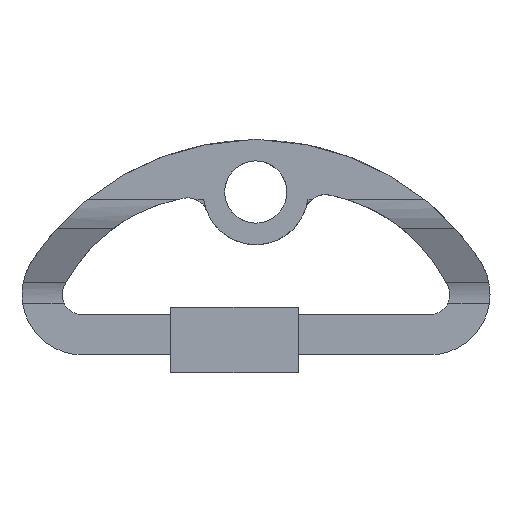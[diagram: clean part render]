
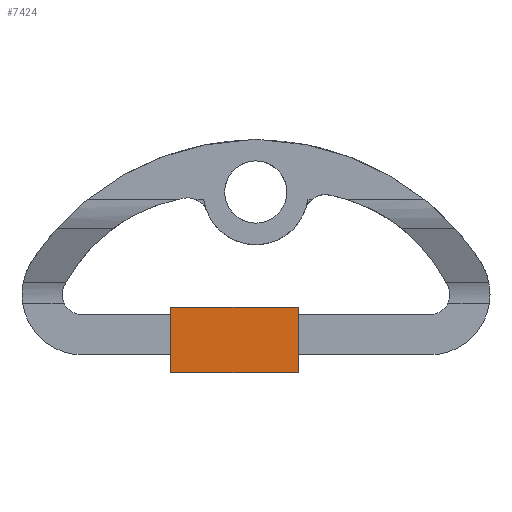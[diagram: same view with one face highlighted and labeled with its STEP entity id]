
A CAD part, top view. The second image highlights one B-rep face of the part: STEP entity #7424.
In plain terms, the highlighted planar face has unit normal (0, 0, 1).
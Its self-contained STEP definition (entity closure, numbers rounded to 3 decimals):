
#5411 = PLANE('',#5412);
#5412 = AXIS2_PLACEMENT_3D('',#5413,#5414,#5415);
#5413 = CARTESIAN_POINT('',(2.345,-6.455,-0.6));
#5414 = DIRECTION('',(1.,0.,0.));
#5415 = DIRECTION('',(0.,1.,0.));
#5833 = PLANE('',#5834);
#5834 = AXIS2_PLACEMENT_3D('',#5835,#5836,#5837);
#5835 = CARTESIAN_POINT('',(-4.005,-3.205,-0.6));
#5836 = DIRECTION('',(-1.,0.,0.));
#5837 = DIRECTION('',(0.,-1.,0.));
#6111 = VERTEX_POINT('',#6112);
#6112 = CARTESIAN_POINT('',(2.345,-6.455,-0.6));
#6128 = PLANE('',#6129);
#6129 = AXIS2_PLACEMENT_3D('',#6130,#6131,#6132);
#6130 = CARTESIAN_POINT('',(-4.005,-6.455,-0.6));
#6131 = DIRECTION('',(0.,-1.,0.));
#6132 = DIRECTION('',(1.,0.,0.));
#6186 = VERTEX_POINT('',#6187);
#6187 = CARTESIAN_POINT('',(2.345,-3.205,-0.6));
#6201 = PLANE('',#6202);
#6202 = AXIS2_PLACEMENT_3D('',#6203,#6204,#6205);
#6203 = CARTESIAN_POINT('',(2.345,-3.205,-0.6));
#6204 = DIRECTION('',(0.,1.,0.));
#6205 = DIRECTION('',(-1.,0.,0.));
#6213 = EDGE_CURVE('',#6111,#6186,#6214,.T.);
#6214 = SURFACE_CURVE('',#6215,(#6219,#6226),.PCURVE_S1.);
#6215 = LINE('',#6216,#6217);
#6216 = CARTESIAN_POINT('',(2.345,-6.455,-0.6));
#6217 = VECTOR('',#6218,1.);
#6218 = DIRECTION('',(0.,1.,0.));
#6219 = PCURVE('',#5411,#6220);
#6220 = DEFINITIONAL_REPRESENTATION('',(#6221),#6225);
#6221 = LINE('',#6222,#6223);
#6222 = CARTESIAN_POINT('',(0.,0.));
#6223 = VECTOR('',#6224,1.);
#6224 = DIRECTION('',(1.,0.));
#6225 = ( GEOMETRIC_REPRESENTATION_CONTEXT(2) 
PARAMETRIC_REPRESENTATION_CONTEXT() REPRESENTATION_CONTEXT('2D SPACE',''
  ) );
#6226 = PCURVE('',#6227,#6232);
#6227 = PLANE('',#6228);
#6228 = AXIS2_PLACEMENT_3D('',#6229,#6230,#6231);
#6229 = CARTESIAN_POINT('',(-0.83,-4.83,-0.6));
#6230 = DIRECTION('',(0.,0.,1.));
#6231 = DIRECTION('',(1.,0.,0.));
#6232 = DEFINITIONAL_REPRESENTATION('',(#6233),#6237);
#6233 = LINE('',#6234,#6235);
#6234 = CARTESIAN_POINT('',(3.175,-1.625));
#6235 = VECTOR('',#6236,1.);
#6236 = DIRECTION('',(0.,1.));
#6237 = ( GEOMETRIC_REPRESENTATION_CONTEXT(2) 
PARAMETRIC_REPRESENTATION_CONTEXT() REPRESENTATION_CONTEXT('2D SPACE',''
  ) );
#7023 = VERTEX_POINT('',#7024);
#7024 = CARTESIAN_POINT('',(-4.005,-3.205,-0.6));
#7049 = VERTEX_POINT('',#7050);
#7050 = CARTESIAN_POINT('',(-4.005,-6.455,-0.6));
#7071 = EDGE_CURVE('',#7023,#7049,#7072,.T.);
#7072 = SURFACE_CURVE('',#7073,(#7077,#7084),.PCURVE_S1.);
#7073 = LINE('',#7074,#7075);
#7074 = CARTESIAN_POINT('',(-4.005,-3.205,-0.6));
#7075 = VECTOR('',#7076,1.);
#7076 = DIRECTION('',(0.,-1.,0.));
#7077 = PCURVE('',#5833,#7078);
#7078 = DEFINITIONAL_REPRESENTATION('',(#7079),#7083);
#7079 = LINE('',#7080,#7081);
#7080 = CARTESIAN_POINT('',(0.,0.));
#7081 = VECTOR('',#7082,1.);
#7082 = DIRECTION('',(1.,0.));
#7083 = ( GEOMETRIC_REPRESENTATION_CONTEXT(2) 
PARAMETRIC_REPRESENTATION_CONTEXT() REPRESENTATION_CONTEXT('2D SPACE',''
  ) );
#7084 = PCURVE('',#6227,#7085);
#7085 = DEFINITIONAL_REPRESENTATION('',(#7086),#7090);
#7086 = LINE('',#7087,#7088);
#7087 = CARTESIAN_POINT('',(-3.175,1.625));
#7088 = VECTOR('',#7089,1.);
#7089 = DIRECTION('',(0.,-1.));
#7090 = ( GEOMETRIC_REPRESENTATION_CONTEXT(2) 
PARAMETRIC_REPRESENTATION_CONTEXT() REPRESENTATION_CONTEXT('2D SPACE',''
  ) );
#7377 = EDGE_CURVE('',#7049,#6111,#7378,.T.);
#7378 = SURFACE_CURVE('',#7379,(#7383,#7390),.PCURVE_S1.);
#7379 = LINE('',#7380,#7381);
#7380 = CARTESIAN_POINT('',(-4.005,-6.455,-0.6));
#7381 = VECTOR('',#7382,1.);
#7382 = DIRECTION('',(1.,0.,0.));
#7383 = PCURVE('',#6128,#7384);
#7384 = DEFINITIONAL_REPRESENTATION('',(#7385),#7389);
#7385 = LINE('',#7386,#7387);
#7386 = CARTESIAN_POINT('',(0.,0.));
#7387 = VECTOR('',#7388,1.);
#7388 = DIRECTION('',(1.,0.));
#7389 = ( GEOMETRIC_REPRESENTATION_CONTEXT(2) 
PARAMETRIC_REPRESENTATION_CONTEXT() REPRESENTATION_CONTEXT('2D SPACE',''
  ) );
#7390 = PCURVE('',#6227,#7391);
#7391 = DEFINITIONAL_REPRESENTATION('',(#7392),#7396);
#7392 = LINE('',#7393,#7394);
#7393 = CARTESIAN_POINT('',(-3.175,-1.625));
#7394 = VECTOR('',#7395,1.);
#7395 = DIRECTION('',(1.,0.));
#7396 = ( GEOMETRIC_REPRESENTATION_CONTEXT(2) 
PARAMETRIC_REPRESENTATION_CONTEXT() REPRESENTATION_CONTEXT('2D SPACE',''
  ) );
#7404 = EDGE_CURVE('',#6186,#7023,#7405,.T.);
#7405 = SURFACE_CURVE('',#7406,(#7410,#7417),.PCURVE_S1.);
#7406 = LINE('',#7407,#7408);
#7407 = CARTESIAN_POINT('',(2.345,-3.205,-0.6));
#7408 = VECTOR('',#7409,1.);
#7409 = DIRECTION('',(-1.,0.,0.));
#7410 = PCURVE('',#6201,#7411);
#7411 = DEFINITIONAL_REPRESENTATION('',(#7412),#7416);
#7412 = LINE('',#7413,#7414);
#7413 = CARTESIAN_POINT('',(0.,0.));
#7414 = VECTOR('',#7415,1.);
#7415 = DIRECTION('',(1.,0.));
#7416 = ( GEOMETRIC_REPRESENTATION_CONTEXT(2) 
PARAMETRIC_REPRESENTATION_CONTEXT() REPRESENTATION_CONTEXT('2D SPACE',''
  ) );
#7417 = PCURVE('',#6227,#7418);
#7418 = DEFINITIONAL_REPRESENTATION('',(#7419),#7423);
#7419 = LINE('',#7420,#7421);
#7420 = CARTESIAN_POINT('',(3.175,1.625));
#7421 = VECTOR('',#7422,1.);
#7422 = DIRECTION('',(-1.,0.));
#7423 = ( GEOMETRIC_REPRESENTATION_CONTEXT(2) 
PARAMETRIC_REPRESENTATION_CONTEXT() REPRESENTATION_CONTEXT('2D SPACE',''
  ) );
#7424 = ADVANCED_FACE('',(#7425),#6227,.T.);
#7425 = FACE_BOUND('',#7426,.T.);
#7426 = EDGE_LOOP('',(#7427,#7428,#7429,#7430));
#7427 = ORIENTED_EDGE('',*,*,#7071,.T.);
#7428 = ORIENTED_EDGE('',*,*,#7377,.T.);
#7429 = ORIENTED_EDGE('',*,*,#6213,.T.);
#7430 = ORIENTED_EDGE('',*,*,#7404,.T.);
